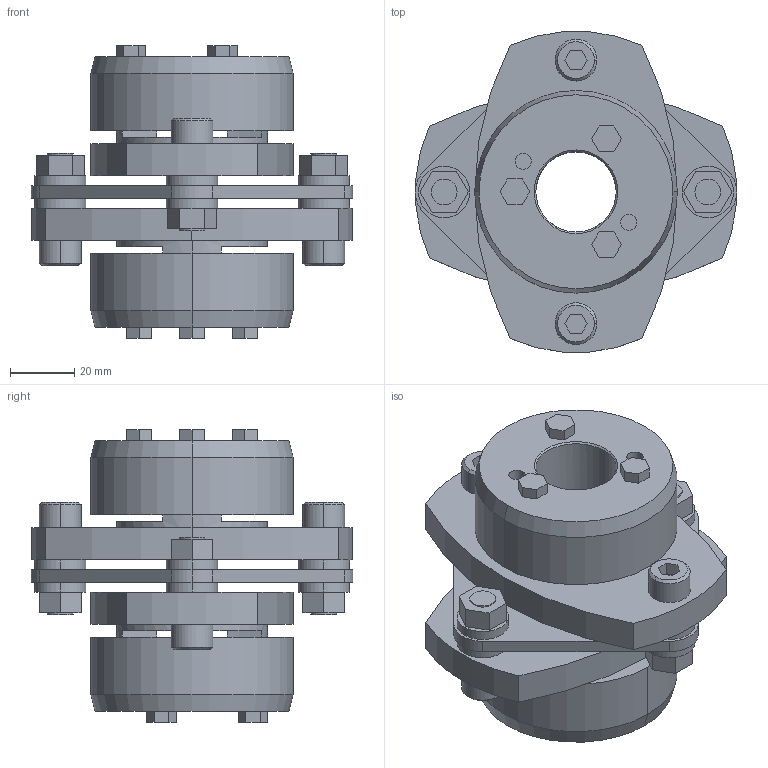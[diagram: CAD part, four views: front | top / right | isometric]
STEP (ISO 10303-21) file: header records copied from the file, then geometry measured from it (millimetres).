
FILE_DESCRIPTION((''),'2;1');
FILE_NAME('LCS-100T7-25×25.stp','2011-09-08T17:09:30',(''),(''),'AutoCAD STEP 2000i','AutoCAD 2000i',', , ');
FILE_SCHEMA(('CONFIG_CONTROL_DESIGN'));
Length unit declared in the file: millimetre
Products named in the file (7): LCS-100T7-25×25; 忣兜1; LC100T7-T025-1; LC100T7-T025; LC100T7-T022-1; LC100T7-T022; LCS100-ITA
Assembly tree (6 placements, depth 2):
  LCS-100T7-25×25
    忣兜1
    LC100T7-T025-1
    LC100T7-T025
    LC100T7-T022-1
    LC100T7-T022
    LCS100-ITA
Bounding box: 100 x 99.93 x 91 mm (x, y, z)
Volume: 253398.4 mm3; surface area: 62769.3 mm2
Topology: 1 solids, 1 shells, 232 faces, 568 edges, 372 vertices
Faces by surface type: plane 132, cylinder 80, cone 20
Entity records: 7063 total; most frequent: DIRECTION 1242, CARTESIAN_POINT 1179, ORIENTED_EDGE 1136, EDGE_CURVE 568, AXIS2_PLACEMENT_3D 435, VERTEX_POINT 372, VECTOR 372, LINE 372
